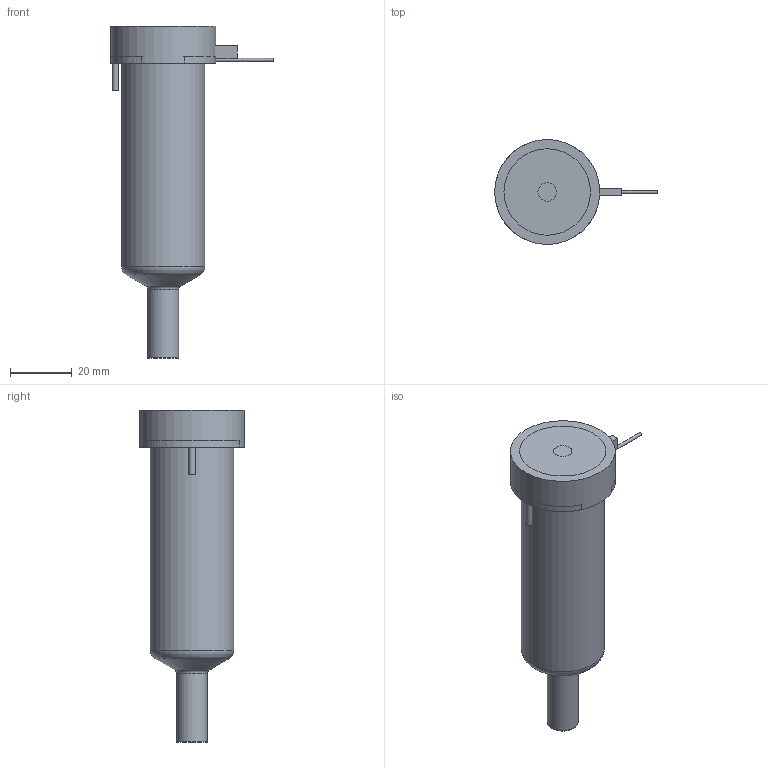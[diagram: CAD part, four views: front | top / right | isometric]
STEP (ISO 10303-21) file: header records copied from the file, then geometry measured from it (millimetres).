
FILE_DESCRIPTION(/* description */ (''),/* implementation_level */ '2;1');
FILE_NAME(/* name */ 'BXYCN13075N4F_250C_a',/* time_stamp */ '2016-02-18T13:31:08+13:00',/* author */ (''),/* organization */ (''),/* preprocessor_version */ 'ST-DEVELOPER v9',/* originating_system */ 'UGS - NX 4.0',/* authorisation */ '');
FILE_SCHEMA (('CONFIG_CONTROL_DESIGN'));
Length unit declared in the file: millimetre
Products named in the file (1): matt4A4Bpkj7
Bounding box: 52.65 x 34 x 107.53 mm (x, y, z)
Volume: 89684.7 mm3; surface area: 19268 mm2
Topology: 2 solids, 2 shells, 64 faces, 137 edges, 89 vertices
Faces by surface type: plane 29, cylinder 21, torus 7, cone 5, bspline 1, sphere 1
Full cylindrical faces by diameter (mm): 1 x2, 1.8 x1, 2 x1, 4 x1, 6 x1, 9.61 x1, 9.995 x2, 12.6 x1, 22.2 x1, 27 x1, 34 x1
Entity records: 1835 total; most frequent: CARTESIAN_POINT 464, DIRECTION 282, ORIENTED_EDGE 212, AXIS2_PLACEMENT_3D 122, EDGE_CURVE 106, EDGE_LOOP 102, VERTEX_POINT 82, ADVANCED_FACE 64
